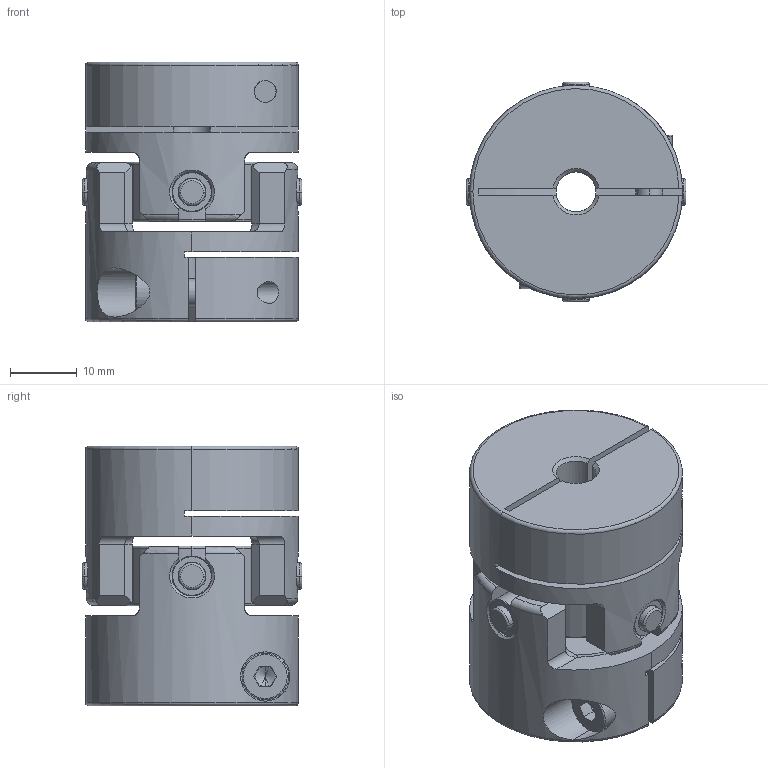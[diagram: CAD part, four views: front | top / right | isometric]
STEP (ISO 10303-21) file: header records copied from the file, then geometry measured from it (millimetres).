
FILE_DESCRIPTION (( 'STEP AP203' ), '1' );
FILE_NAME ('SCJA-32C-6X14_203.STEP', '2013-03-05T23:43:35', ( '' ), ( '' ), 'SwSTEP 2.0', 'SolidWorks 2012', '' );
FILE_SCHEMA (( 'CONFIG_CONTROL_DESIGN' ));
Length unit declared in the file: millimetre
Products named in the file (1): SCJA-32C-6X14_203
Bounding box: 33 x 33 x 39 mm (x, y, z)
Volume: 23297.1 mm3; surface area: 12150.6 mm2
Topology: 1 solids, 1 shells, 334 faces, 858 edges, 530 vertices
Faces by surface type: plane 114, cylinder 96, torus 77, cone 35, bspline 12
Entity records: 15883 total; most frequent: CARTESIAN_POINT 7780, DIRECTION 1723, ORIENTED_EDGE 1692, EDGE_CURVE 846, AXIS2_PLACEMENT_3D 718, VERTEX_POINT 528, CIRCLE 396, EDGE_LOOP 362
